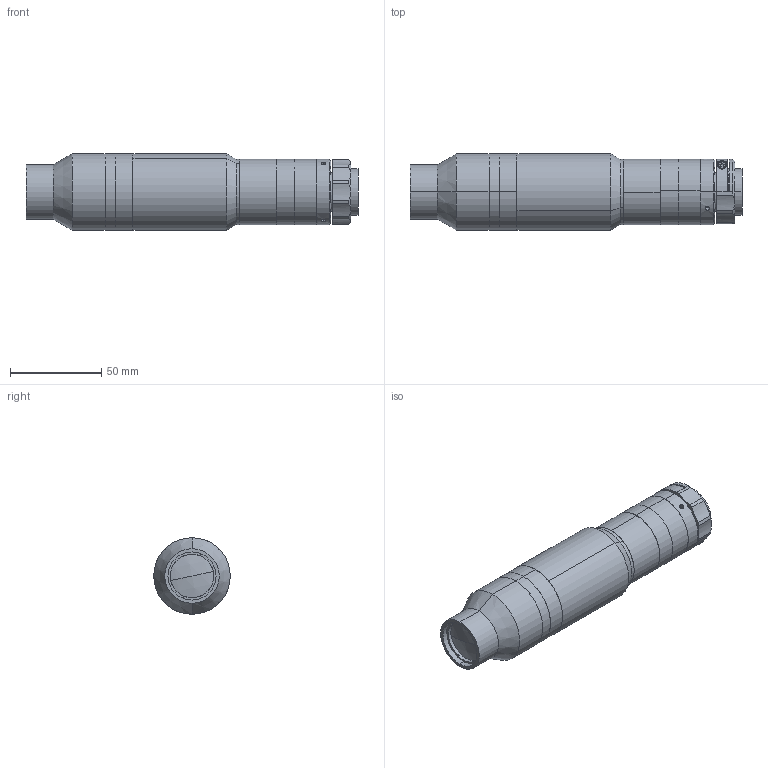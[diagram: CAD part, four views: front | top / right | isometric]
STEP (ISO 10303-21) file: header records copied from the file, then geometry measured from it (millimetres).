
FILE_DESCRIPTION (( 'STEP AP203' ), '1' );
FILE_NAME ('XF-MH04X358.STEP', '2020-08-24T07:14:12', ( 'canrill-02' ), ( '' ), 'SwSTEP 2.0', 'SolidWorks 2014', '' );
FILE_SCHEMA (( 'CONFIG_CONTROL_DESIGN' ));
Length unit declared in the file: millimetre
Products named in the file (1): XF-MH04X358
Bounding box: 182.35 x 42 x 42 mm (x, y, z)
Surface area: 29171.4 mm2 (no closed solid volume)
Topology: 0 solids, 15 shells, 117 faces, 306 edges, 209 vertices
Faces by surface type: cylinder 53, plane 43, cone 17, sphere 2, torus 2
Entity records: 3985 total; most frequent: CARTESIAN_POINT 952, DIRECTION 680, ORIENTED_EDGE 520, EDGE_CURVE 304, AXIS2_PLACEMENT_3D 281, VERTEX_POINT 209, CIRCLE 163, EDGE_LOOP 144
